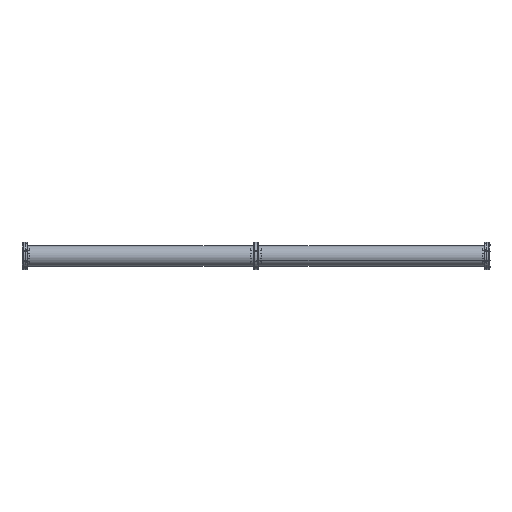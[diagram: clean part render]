
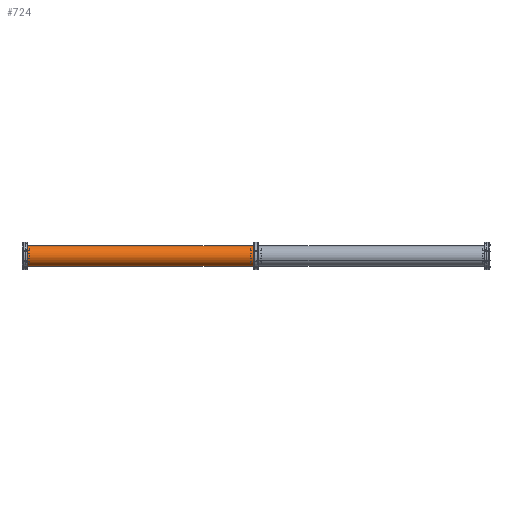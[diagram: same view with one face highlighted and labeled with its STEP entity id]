
A CAD part, front view. The second image highlights one B-rep face of the part: STEP entity #724.
In plain terms, the highlighted cylindrical face has radius 25 mm (diameter 50 mm), a partial arc.
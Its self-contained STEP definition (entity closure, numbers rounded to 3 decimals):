
#724 = ADVANCED_FACE ( 'NONE', ( #8508 ), #12621, .T. ) ;
#784 = CARTESIAN_POINT ( 'NONE',  ( 25., 0., 275. ) ) ;
#2338 = CARTESIAN_POINT ( 'NONE',  ( -25., 0., -275. ) ) ;
#2480 = AXIS2_PLACEMENT_3D ( 'NONE', #9734, #15392, #15576 ) ;
#2699 = EDGE_CURVE ( 'NONE', #17238, #5491, #10846, .T. ) ;
#3892 = CARTESIAN_POINT ( 'NONE',  ( 25., 0., 275. ) ) ;
#4192 = AXIS2_PLACEMENT_3D ( 'NONE', #10226, #15872, #14027 ) ;
#4487 = EDGE_LOOP ( 'NONE', ( #12122, #9099, #4628, #12507 ) ) ;
#4628 = ORIENTED_EDGE ( 'NONE', *, *, #10800, .T. ) ;
#5245 = DIRECTION ( 'NONE',  ( 0., 0., -1. ) ) ;
#5491 = VERTEX_POINT ( 'NONE', #15262 ) ;
#6055 = VERTEX_POINT ( 'NONE', #15415 ) ;
#6752 = EDGE_CURVE ( 'NONE', #17238, #6055, #11846, .T. ) ;
#7705 = VERTEX_POINT ( 'NONE', #2338 ) ;
#7706 = VECTOR ( 'NONE', #5245, 1000. ) ;
#8420 = DIRECTION ( 'NONE',  ( 1., 0., 0. ) ) ;
#8508 = FACE_OUTER_BOUND ( 'NONE', #4487, .T. ) ;
#9099 = ORIENTED_EDGE ( 'NONE', *, *, #2699, .T. ) ;
#9734 = CARTESIAN_POINT ( 'NONE',  ( 0., 0., 275. ) ) ;
#10226 = CARTESIAN_POINT ( 'NONE',  ( 0., 0., -275. ) ) ;
#10800 = EDGE_CURVE ( 'NONE', #5491, #7705, #17205, .T. ) ;
#10846 = LINE ( 'NONE', #3892, #11347 ) ;
#11347 = VECTOR ( 'NONE', #13450, 1000. ) ;
#11676 = EDGE_CURVE ( 'NONE', #6055, #7705, #12322, .T. ) ;
#11846 = CIRCLE ( 'NONE', #16853, 25. ) ;
#12122 = ORIENTED_EDGE ( 'NONE', *, *, #6752, .F. ) ;
#12322 = LINE ( 'NONE', #18229, #7706 ) ;
#12507 = ORIENTED_EDGE ( 'NONE', *, *, #11676, .F. ) ;
#12621 = CYLINDRICAL_SURFACE ( 'NONE', #2480, 25. ) ;
#13450 = DIRECTION ( 'NONE',  ( 0., 0., -1. ) ) ;
#14027 = DIRECTION ( 'NONE',  ( 1., 0., 0. ) ) ;
#14982 = DIRECTION ( 'NONE',  ( 0., 0., 1. ) ) ;
#15262 = CARTESIAN_POINT ( 'NONE',  ( 25., 0., -275. ) ) ;
#15392 = DIRECTION ( 'NONE',  ( 0., 0., -1. ) ) ;
#15415 = CARTESIAN_POINT ( 'NONE',  ( -25., 0., 275. ) ) ;
#15576 = DIRECTION ( 'NONE',  ( -1., 0., 0. ) ) ;
#15872 = DIRECTION ( 'NONE',  ( 0., 0., 1. ) ) ;
#16853 = AXIS2_PLACEMENT_3D ( 'NONE', #16950, #14982, #8420 ) ;
#16950 = CARTESIAN_POINT ( 'NONE',  ( 0., 0., 275. ) ) ;
#17205 = CIRCLE ( 'NONE', #4192, 25. ) ;
#17238 = VERTEX_POINT ( 'NONE', #784 ) ;
#18229 = CARTESIAN_POINT ( 'NONE',  ( -25., 0., 275. ) ) ;
